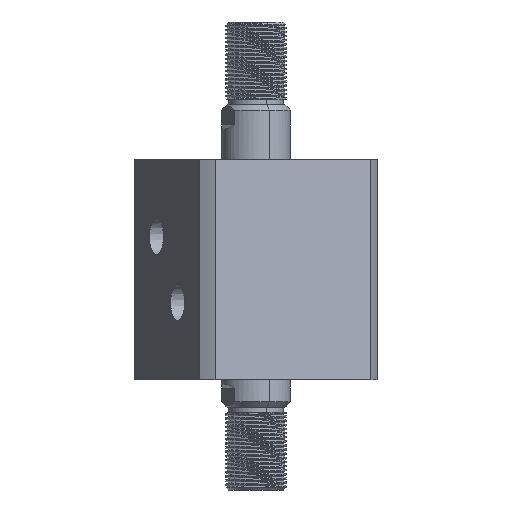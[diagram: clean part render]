
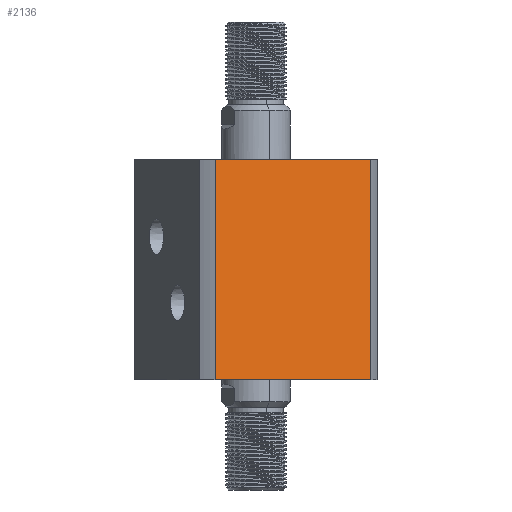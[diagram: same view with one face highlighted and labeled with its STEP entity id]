
A CAD part, front view. The second image highlights one B-rep face of the part: STEP entity #2136.
In plain terms, the highlighted planar face has unit normal (0.383, -0.924, 0) as drawn and (1, 0, 0) by its records, which use the part's own axes.
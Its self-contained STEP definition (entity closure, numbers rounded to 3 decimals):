
#563 = VERTEX_POINT ( 'NONE', #8132 ) ;
#1368 = VECTOR ( 'NONE', #8627, 1000. ) ;
#1896 = PLANE ( 'NONE',  #15713 ) ;
#2136 = ADVANCED_FACE ( 'NONE', ( #10149 ), #1896, .F. ) ;
#2207 = CARTESIAN_POINT ( 'NONE',  ( 35., 30.615, -220. ) ) ;
#3365 = DIRECTION ( 'NONE',  ( 0., 1., 0. ) ) ;
#3957 = DIRECTION ( 'NONE',  ( 0., 0., 1. ) ) ;
#4272 = VECTOR ( 'NONE', #11680, 1000. ) ;
#4496 = EDGE_LOOP ( 'NONE', ( #9196, #14590, #12052, #6771 ) ) ;
#4624 = CARTESIAN_POINT ( 'NONE',  ( 35., 35., 80. ) ) ;
#4809 = EDGE_CURVE ( 'NONE', #563, #13080, #10754, .T. ) ;
#4982 = LINE ( 'NONE', #14041, #1368 ) ;
#5331 = CARTESIAN_POINT ( 'NONE',  ( 35., -30.615, -220. ) ) ;
#5815 = VECTOR ( 'NONE', #3365, 1000. ) ;
#6771 = ORIENTED_EDGE ( 'NONE', *, *, #16086, .F. ) ;
#7267 = CARTESIAN_POINT ( 'NONE',  ( 35., 30.615, 80. ) ) ;
#8132 = CARTESIAN_POINT ( 'NONE',  ( 35., -30.615, 0. ) ) ;
#8627 = DIRECTION ( 'NONE',  ( 0., 1., 0. ) ) ;
#8637 = DIRECTION ( 'NONE',  ( -1., 0., 0. ) ) ;
#9024 = CARTESIAN_POINT ( 'NONE',  ( 35., -30.615, 80. ) ) ;
#9196 = ORIENTED_EDGE ( 'NONE', *, *, #4809, .F. ) ;
#10149 = FACE_OUTER_BOUND ( 'NONE', #4496, .T. ) ;
#10339 = VECTOR ( 'NONE', #3957, 1000. ) ;
#10754 = LINE ( 'NONE', #5331, #10339 ) ;
#10814 = EDGE_CURVE ( 'NONE', #14329, #12333, #14674, .T. ) ;
#11474 = CARTESIAN_POINT ( 'NONE',  ( 35., 35., 80. ) ) ;
#11680 = DIRECTION ( 'NONE',  ( 0., 0., -1. ) ) ;
#12052 = ORIENTED_EDGE ( 'NONE', *, *, #10814, .F. ) ;
#12333 = VERTEX_POINT ( 'NONE', #17024 ) ;
#13080 = VERTEX_POINT ( 'NONE', #9024 ) ;
#14041 = CARTESIAN_POINT ( 'NONE',  ( 35., 35., 0. ) ) ;
#14329 = VERTEX_POINT ( 'NONE', #7267 ) ;
#14590 = ORIENTED_EDGE ( 'NONE', *, *, #15139, .T. ) ;
#14674 = LINE ( 'NONE', #2207, #4272 ) ;
#15139 = EDGE_CURVE ( 'NONE', #563, #12333, #4982, .T. ) ;
#15713 = AXIS2_PLACEMENT_3D ( 'NONE', #4624, #8637, #16962 ) ;
#16086 = EDGE_CURVE ( 'NONE', #13080, #14329, #17492, .T. ) ;
#16962 = DIRECTION ( 'NONE',  ( 0., -1., 0. ) ) ;
#17024 = CARTESIAN_POINT ( 'NONE',  ( 35., 30.615, 0. ) ) ;
#17492 = LINE ( 'NONE', #11474, #5815 ) ;
